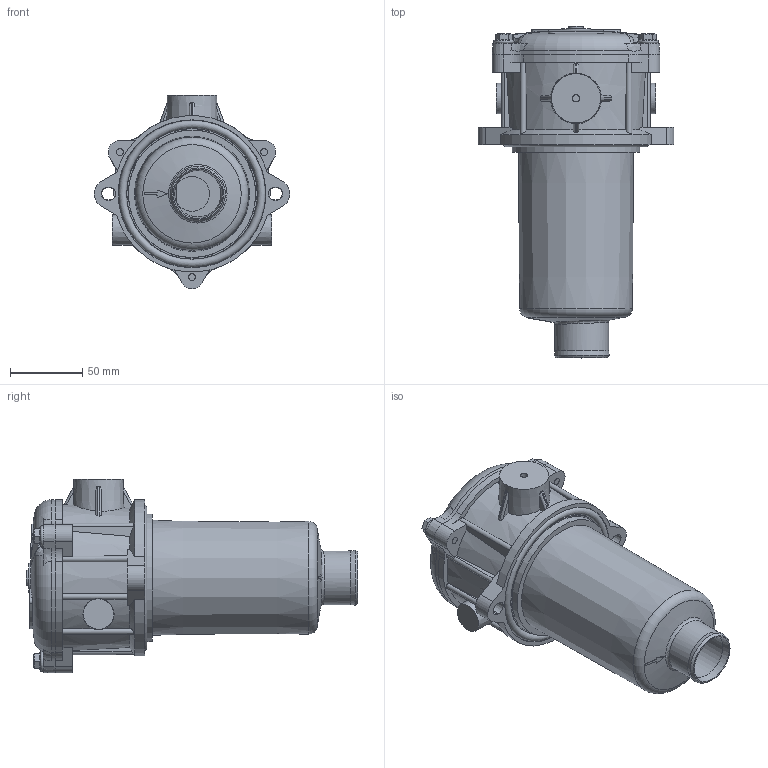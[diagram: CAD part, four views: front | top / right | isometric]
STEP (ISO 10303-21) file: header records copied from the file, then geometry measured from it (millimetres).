
FILE_DESCRIPTION((''),'2;1');
FILE_NAME('V:\Disegni-3D-Cliente\Filtri\Filtri sul Ritorno\MPF\MPF100-110\MPF_100_2_x_G2_xxx_x_x_P01_rev00.stp','2014-10-09T15:14:00',('cad10'),(''),'Autodesk Inventor 2013','Autodesk Inventor 2013','');
FILE_SCHEMA(('CONFIG_CONTROL_DESIGN'));
Length unit declared in the file: millimetre
Products named in the file (1): MPF_100_2_x_G1-2-4-5-7-8_xxx_x_x_P01_rev00
Bounding box: 135 x 229 x 133.5 mm (x, y, z)
Volume: 1257275.9 mm3; surface area: 98693.4 mm2
Topology: 1 solids, 1 shells, 260 faces, 705 edges, 464 vertices
Faces by surface type: plane 124, cone 59, cylinder 44, bspline 22, torus 10, sphere 1
Full cylindrical faces by diameter (mm): 5 x1, 9.5 x1, 24 x1, 32 x1, 37 x1
Entity records: 9816 total; most frequent: CARTESIAN_POINT 3677, ORIENTED_EDGE 1332, DIRECTION 1038, EDGE_CURVE 666, VERTEX_POINT 457, AXIS2_PLACEMENT_3D 418, EDGE_LOOP 314, STYLED_ITEM 261
